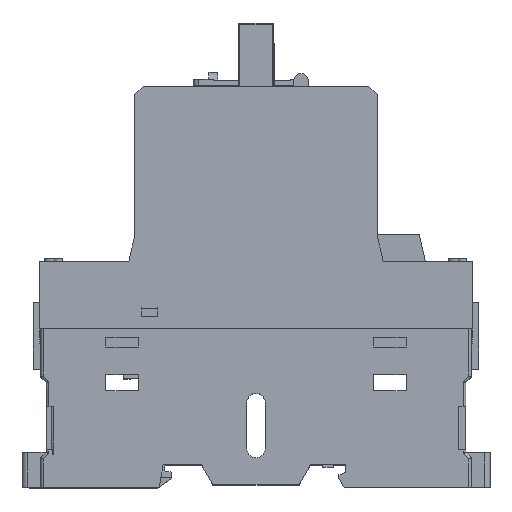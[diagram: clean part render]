
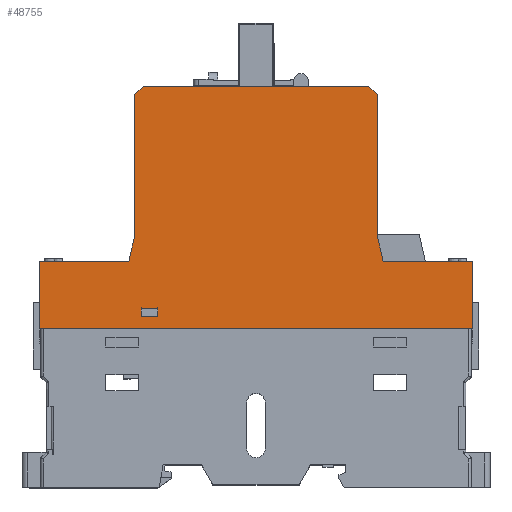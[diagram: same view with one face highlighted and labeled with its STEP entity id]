
A CAD part, top view. The second image highlights one B-rep face of the part: STEP entity #48755.
In plain terms, the highlighted planar face has unit normal (0, 0, 1).
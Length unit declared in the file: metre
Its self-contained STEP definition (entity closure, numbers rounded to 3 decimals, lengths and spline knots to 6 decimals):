
#41891=CARTESIAN_POINT('',(0.083455,0.015786,0.049028));
#41892=VERTEX_POINT('',#41891);
#41895=CARTESIAN_POINT('',(0.084605,0.010786,0.049028));
#41896=DIRECTION('',(-0.224,0.975,0.));
#41897=VECTOR('',#41896,1.);
#41898=LINE('',#41895,#41897);
#41899=CARTESIAN_POINT('',(0.084605,0.010786,0.049028));
#41900=VERTEX_POINT('',#41899);
#41901=EDGE_CURVE('',#41900,#41892,#41898,.T.);
#45432=CARTESIAN_POINT('',(0.101155,0.010786,0.049028));
#45433=VERTEX_POINT('',#45432);
#45436=CARTESIAN_POINT('',(0.101155,0.010786,0.049028));
#45437=DIRECTION('',(0.,-1.,0.));
#45438=VECTOR('',#45437,1.);
#45439=LINE('',#45436,#45438);
#45440=CARTESIAN_POINT('',(0.101155,-0.001714,0.049028));
#45441=VERTEX_POINT('',#45440);
#45442=EDGE_CURVE('',#45433,#45441,#45439,.T.);
#45735=CARTESIAN_POINT('',(0.020955,-0.001714,0.049028));
#45736=DIRECTION('',(1.,0.,0.));
#45737=VECTOR('',#45736,1.);
#45738=LINE('',#45735,#45737);
#45739=CARTESIAN_POINT('',(0.020755,-0.001714,0.049028));
#45740=VERTEX_POINT('',#45739);
#45741=EDGE_CURVE('',#45740,#45441,#45738,.T.);
#46632=CARTESIAN_POINT('',(0.020755,-0.001714,0.049028));
#46633=DIRECTION('',(0.,1.,0.));
#46634=VECTOR('',#46633,1.);
#46635=LINE('',#46632,#46634);
#46636=CARTESIAN_POINT('',(0.020755,0.010786,0.049028));
#46637=VERTEX_POINT('',#46636);
#46638=EDGE_CURVE('',#45740,#46637,#46635,.T.);
#48446=CARTESIAN_POINT('',(0.020955,0.010786,0.049028));
#48447=DIRECTION('',(-1.,0.,0.));
#48448=VECTOR('',#48447,1.);
#48449=LINE('',#48446,#48448);
#48450=CARTESIAN_POINT('',(0.037305,0.010786,0.049028));
#48451=VERTEX_POINT('',#48450);
#48452=EDGE_CURVE('',#48451,#46637,#48449,.T.);
#48570=CARTESIAN_POINT('',(0.037305,0.010786,0.049028));
#48571=DIRECTION('',(-0.224,-0.975,0.));
#48572=VECTOR('',#48571,1.);
#48573=LINE('',#48570,#48572);
#48574=CARTESIAN_POINT('',(0.038455,0.015786,0.049028));
#48575=VERTEX_POINT('',#48574);
#48576=EDGE_CURVE('',#48575,#48451,#48573,.T.);
#48600=CARTESIAN_POINT('',(0.038455,0.043286,0.049028));
#48601=DIRECTION('',(0.,-1.,0.));
#48602=VECTOR('',#48601,1.);
#48603=LINE('',#48600,#48602);
#48604=CARTESIAN_POINT('',(0.038455,0.041786,0.049028));
#48605=VERTEX_POINT('',#48604);
#48606=EDGE_CURVE('',#48605,#48575,#48603,.T.);
#48639=CARTESIAN_POINT('',(0.038455,0.041786,0.049028));
#48640=DIRECTION('',(0.707,0.707,0.));
#48641=VECTOR('',#48640,1.);
#48642=LINE('',#48639,#48641);
#48643=CARTESIAN_POINT('',(0.039955,0.043286,0.049028));
#48644=VERTEX_POINT('',#48643);
#48645=EDGE_CURVE('',#48605,#48644,#48642,.T.);
#48678=CARTESIAN_POINT('',(0.081955,0.043286,0.049028));
#48679=DIRECTION('',(0.707,-0.707,0.));
#48680=VECTOR('',#48679,1.);
#48681=LINE('',#48678,#48680);
#48682=CARTESIAN_POINT('',(0.081955,0.043286,0.049028));
#48683=VERTEX_POINT('',#48682);
#48684=CARTESIAN_POINT('',(0.083455,0.041786,0.049028));
#48685=VERTEX_POINT('',#48684);
#48686=EDGE_CURVE('',#48683,#48685,#48681,.T.);
#48721=CARTESIAN_POINT('',(0.020955,0.010786,0.049028));
#48722=DIRECTION('',(0.,0.,-1.));
#48723=DIRECTION('',(-1.,0.,0.));
#48724=AXIS2_PLACEMENT_3D('',#48721,#48722,#48723);
#48725=PLANE('',#48724);
#48726=CARTESIAN_POINT('',(0.083455,0.043286,0.049028));
#48727=DIRECTION('',(0.,1.,0.));
#48728=VECTOR('',#48727,1.);
#48729=LINE('',#48726,#48728);
#48730=EDGE_CURVE('',#41892,#48685,#48729,.T.);
#48731=ORIENTED_EDGE('',*,*,#48730,.T.);
#48732=ORIENTED_EDGE('',*,*,#48686,.F.);
#48733=CARTESIAN_POINT('',(0.038455,0.043286,0.049028));
#48734=DIRECTION('',(-1.,0.,0.));
#48735=VECTOR('',#48734,1.);
#48736=LINE('',#48733,#48735);
#48737=EDGE_CURVE('',#48683,#48644,#48736,.T.);
#48738=ORIENTED_EDGE('',*,*,#48737,.T.);
#48739=ORIENTED_EDGE('',*,*,#48645,.F.);
#48740=ORIENTED_EDGE('',*,*,#48606,.T.);
#48741=ORIENTED_EDGE('',*,*,#48576,.T.);
#48742=ORIENTED_EDGE('',*,*,#48452,.T.);
#48743=ORIENTED_EDGE('',*,*,#46638,.F.);
#48744=ORIENTED_EDGE('',*,*,#45741,.T.);
#48745=ORIENTED_EDGE('',*,*,#45442,.F.);
#48746=CARTESIAN_POINT('',(0.084605,0.010786,0.049028));
#48747=DIRECTION('',(-1.,0.,0.));
#48748=VECTOR('',#48747,1.);
#48749=LINE('',#48746,#48748);
#48750=EDGE_CURVE('',#45433,#41900,#48749,.T.);
#48751=ORIENTED_EDGE('',*,*,#48750,.T.);
#48752=ORIENTED_EDGE('',*,*,#41901,.T.);
#48753=EDGE_LOOP('',(#48731,#48732,#48738,#48739,#48740,#48741,#48742,#48743,#48744,#48745,#48751,#48752));
#48754=FACE_BOUND('',#48753,.T.);
#48755=ADVANCED_FACE('',(#48754),#48725,.F.);
